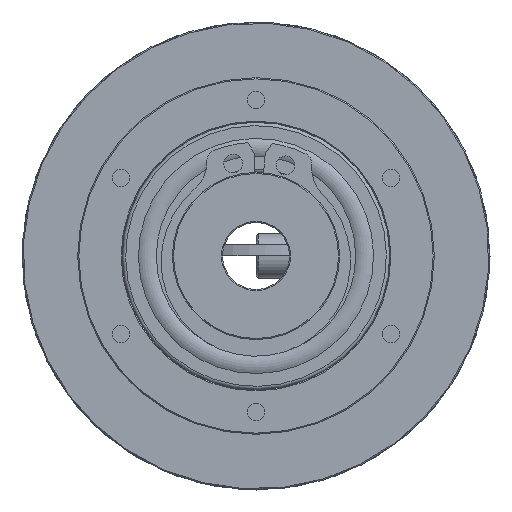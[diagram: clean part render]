
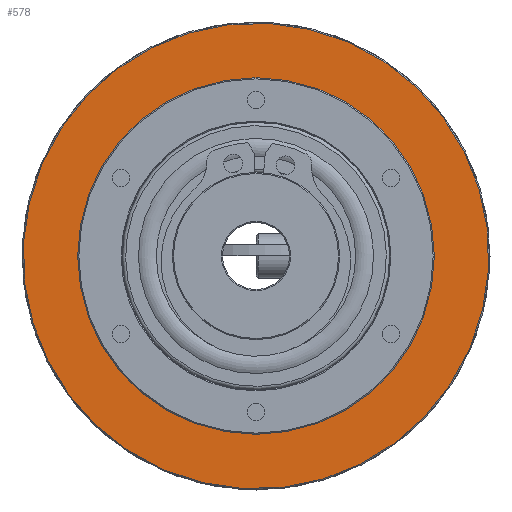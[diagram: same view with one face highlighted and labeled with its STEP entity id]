
A CAD part, left-side view. The second image highlights one B-rep face of the part: STEP entity #578.
In plain terms, the highlighted planar face has unit normal (-1, 0, 0) as drawn and (1, 0, 0) by its records, which use the part's own axes.
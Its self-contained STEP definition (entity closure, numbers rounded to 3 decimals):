
#578 = ADVANCED_FACE( '', ( #905, #906 ), #907, .F. );
#905 = FACE_OUTER_BOUND( '', #1286, .T. );
#906 = FACE_BOUND( '', #1287, .T. );
#907 = PLANE( '', #1288 );
#1286 = EDGE_LOOP( '', ( #1889 ) );
#1287 = EDGE_LOOP( '', ( #1890 ) );
#1288 = AXIS2_PLACEMENT_3D( '', #1891, #1892, #1893 );
#1889 = ORIENTED_EDGE( '', *, *, #2702, .T. );
#1890 = ORIENTED_EDGE( '', *, *, #2703, .T. );
#1891 = CARTESIAN_POINT( '', ( 0., 11., 0. ) );
#1892 = DIRECTION( '', ( -1., 0., 0. ) );
#1893 = DIRECTION( '', ( 0., 0., 1. ) );
#2702 = EDGE_CURVE( '', #3005, #3005, #3006, .T. );
#2703 = EDGE_CURVE( '', #3007, #3007, #3008, .T. );
#3005 = VERTEX_POINT( '', #3527 );
#3006 = CIRCLE( '', #3528, 20.9 );
#3007 = VERTEX_POINT( '', #3529 );
#3008 = CIRCLE( '', #3530, 11.1 );
#3527 = CARTESIAN_POINT( '', ( 0., 0., 20.9 ) );
#3528 = AXIS2_PLACEMENT_3D( '', #3885, #3886, #3887 );
#3529 = CARTESIAN_POINT( '', ( 0., 0., 11.1 ) );
#3530 = AXIS2_PLACEMENT_3D( '', #3888, #3889, #3890 );
#3885 = CARTESIAN_POINT( '', ( 0., 0., 0. ) );
#3886 = DIRECTION( '', ( 1., 0., 0. ) );
#3887 = DIRECTION( '', ( 0., 0., 1. ) );
#3888 = CARTESIAN_POINT( '', ( 0., 0., 0. ) );
#3889 = DIRECTION( '', ( -1., 0., 0. ) );
#3890 = DIRECTION( '', ( 0., 0., 1. ) );
